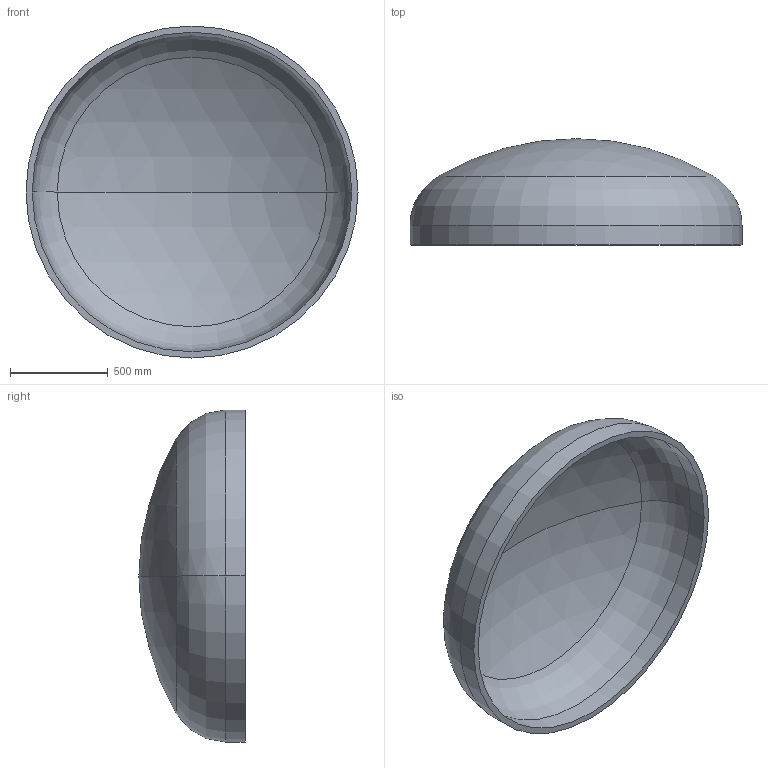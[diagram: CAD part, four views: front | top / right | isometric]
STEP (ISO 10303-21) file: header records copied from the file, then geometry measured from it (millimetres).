
FILE_DESCRIPTION (( 'STEP AP203' ), '1' );
FILE_NAME ('DIN 28013 Korbbogenform_-_Boden DIN 28013 - 1700 x 100 - I - s=32.step', '2016-07-01T11:46:00', ( '' ), ( '' ), 'SwSTEP 2.0', 'SolidWorks 2013', '' );
FILE_SCHEMA (( 'CONFIG_CONTROL_DESIGN' ));
Length unit declared in the file: millimetre
Products named in the file (1): DIN 28013 Korbbogenform_-_Boden DIN 28013 - 1700 x 100 - I - s=32
Bounding box: 1700 x 544.04 x 1700 mm (x, y, z)
Volume: 114767083.5 mm3; surface area: 7342770.7 mm2
Topology: 1 solids, 1 shells, 13 faces, 24 edges, 14 vertices
Faces by surface type: torus 4, cylinder 4, sphere 4, plane 1
Entity records: 407 total; most frequent: DIRECTION 72, CARTESIAN_POINT 52, ORIENTED_EDGE 48, AXIS2_PLACEMENT_3D 34, EDGE_CURVE 24, CIRCLE 20, VERTEX_POINT 14, EDGE_LOOP 14
